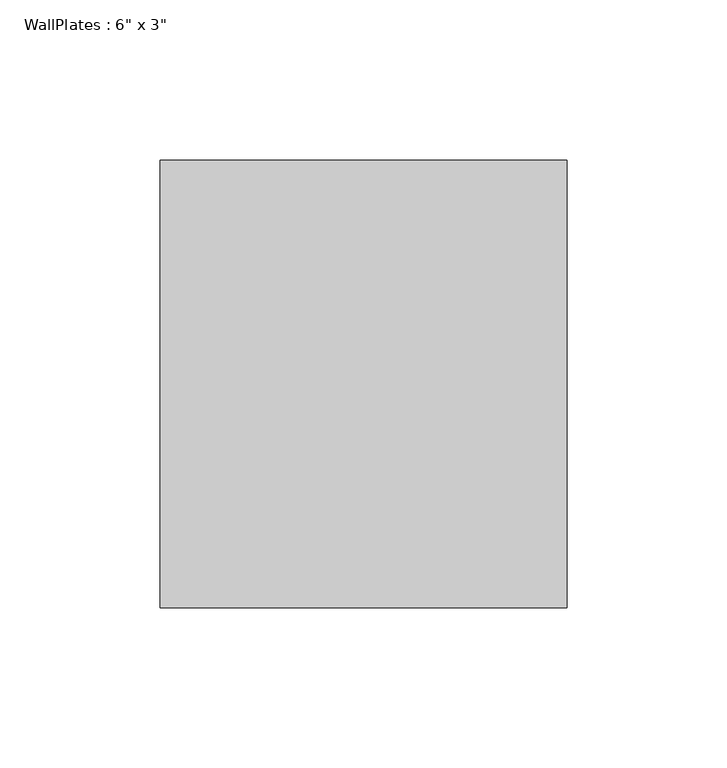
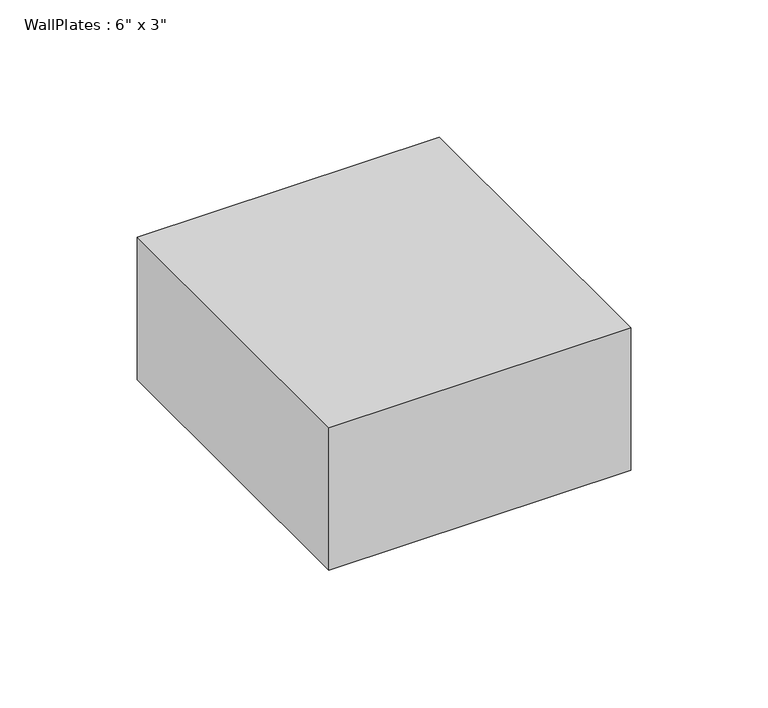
"""IFC4 building model written with IfcOpenShell, lengths in millimetres: beam geometry."""

from ifc_helpers import new_model, si_unit, frame, origin, place, context, project, spatial, polyline, outline, extrude, source, transform, mapped, element, save


def beam_66fce4dd(model_context):
    return source(origin(), model_context, "Body", "SweptSolid", [
        extrude(outline(polyline([(-63.4950127, -69.85), (-63.4950127, 69.85), (63.4950127, 69.85), (63.4950127, -69.85), (-63.4950127, -69.85)])), frame((0.0, 0.0, -31.75), z_axis=(0.0, 0.0, 1.0), x_axis=(1.0, 0.0, 0.0)), (0.0, 0.0, 1.0), 63.5),
    ])


if __name__ == "__main__":
    model = new_model("IFC4")
    model_context = context("Model", 3, world=origin())
    ifc_project = project(units=[si_unit("LENGTHUNIT", "METRE", prefix="MILLI")], contexts=[model_context])
    site = spatial("IfcSite", under=ifc_project)
    building = spatial("IfcBuilding", under=site)
    placement = place(None, origin())
    beam_shape = beam_66fce4dd(model_context)
    element("IfcBeam", 1, ObjectType="WallPlates : 6\" x 3\"", at=placement, inside=building, context=model_context, shape_type="MappedRepresentation", body=[
        mapped(beam_shape, transform((0.0, 0.0, 0.0), x_axis=(1.0, 0.0, 0.0), y_axis=(0.0, 1.0, 0.0), z_axis=(0.0, 0.0, 1.0))),
    ])
    save(model, "model.ifc")
